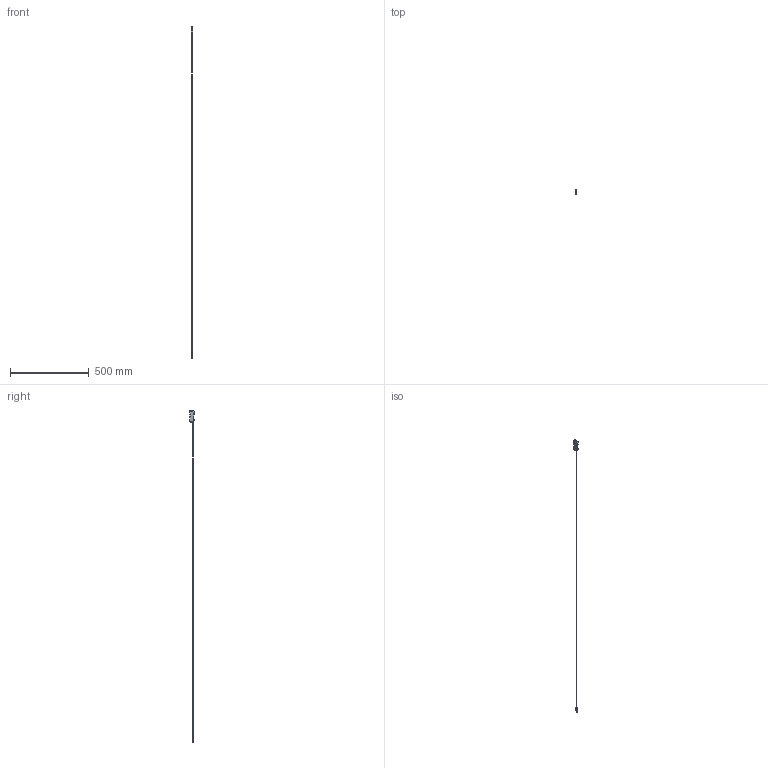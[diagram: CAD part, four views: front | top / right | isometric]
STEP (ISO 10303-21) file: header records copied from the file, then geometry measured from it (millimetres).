
FILE_DESCRIPTION( ( 'STEP AP214' ), '1' );
FILE_NAME( 'L:/99_users/sasakiyu/kari/3Dモデル/流速センサ/アンプ/色無/UPV01/UPV01.step', '2018-09-04T05:39:50', ( ' ' ), ( ' ' ), 'XStep 1.0', ' ', ' ' );
FILE_SCHEMA( ( 'automotive_design' ) );
Length unit declared in the file: millimetre
Products named in the file (1): 1
Bounding box: 9.8 x 30.3 x 2112.65 mm (x, y, z)
Volume: 44269.6 mm3; surface area: 31066.5 mm2
Topology: 1 solids, 1 shells, 102 faces, 260 edges, 171 vertices
Faces by surface type: plane 52, cylinder 23, torus 12, cone 11, bspline 4
Full cylindrical faces by diameter (mm): 1.95 x1, 2.45 x1, 3.8 x1, 3.9 x1, 6.98 x2, 7.2 x1, 7.5 x1, 8.6 x2, 9.5 x1
Entity records: 4198 total; most frequent: CARTESIAN_POINT 1112, DIRECTION 453, ORIENTED_EDGE 450, EDGE_CURVE 225, AXIS2_PLACEMENT_3D 170, VERTEX_POINT 158, EDGE_LOOP 133, FACE_OUTER_BOUND 116
